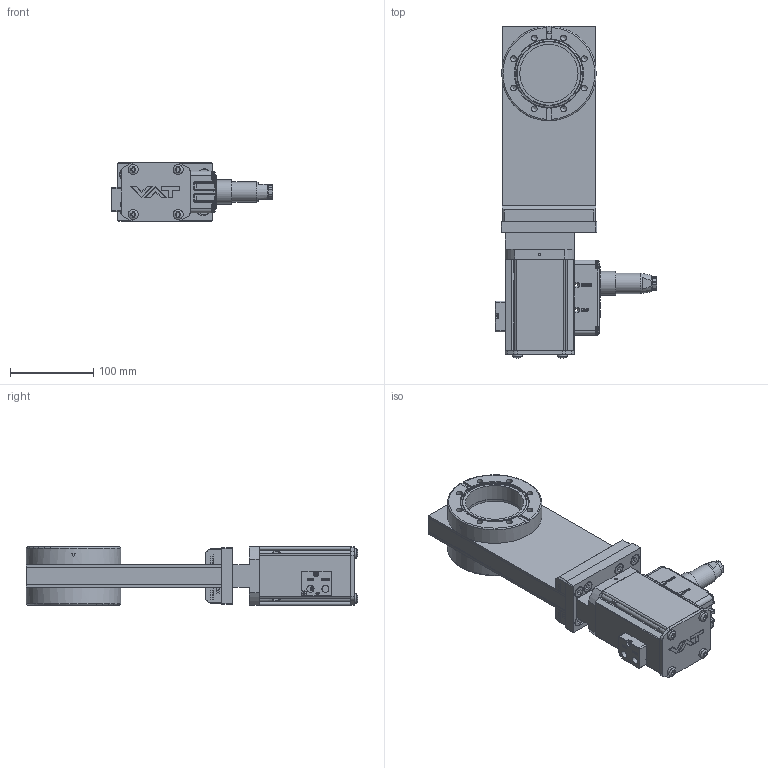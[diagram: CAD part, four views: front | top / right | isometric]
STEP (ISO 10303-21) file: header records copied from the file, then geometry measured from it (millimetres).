
FILE_DESCRIPTION(/* description */ (''),/* implementation_level */ '2;1');
FILE_NAME(/* name */ '1196460278_203.stp',/* time_stamp */ '2016-01-11T09:14:50+01:00',/* author */ (''),/* organization */ (''),/* preprocessor_version */ 'ST-DEVELOPER v15',/* originating_system */ 'SIEMENS PLM Software NX 9.0',/* authorisation */ '');
FILE_SCHEMA (('AP203_CONFIGURATION_CONTROLLED_3D_DESIGN_OF_MECHANICAL_PARTS_AND_ASSEMBLIES_MIM_LF { 1 0 10303 403 2 1 2}'));
Products named in the file (35): 441451_24149ID; 21436-01.1_24162ID; 21437-01.1_24161ID; 21438-01.1; 441451_24158ID; 21437-01.1_24157ID; 21436-01.1_24151ID; 70973-01.1; 70988-01.1; n-8504-002; n-6024-548.1; 70987-01.1; n-6024-526; N-7100-014_2.1; 94828-01.1; N-7100-012_3.1; N-6024-571.1; 85948-01.1; 94221-01.1; 73002-01.1; 69127.1; 72872-01.1; 25832.1_24153ID; 25832.1; n-6099-454.1; 63215-01.1; 218198.1; 790428; 790526_MODEL; 94827-r1.1; 94234-r1.2; 82467-r1.1; 22974-r1.2_MODEL; 25833.2_MODEL; 225356.1
Assembly tree (53 placements, depth 4):
  225356.1
    25833.2_MODEL
      n-6099-454.1  x2
      25832.1
      25832.1_24153ID
      22974-r1.2_MODEL
        21436-01.1_24151ID
        21437-01.1_24157ID
        441451_24158ID
        21438-01.1
        21437-01.1_24161ID
        21436-01.1_24162ID
        441451_24149ID
    790428
    82467-r1.1
      72872-01.1
      69127.1
    218198.1  x8
    63215-01.1
    94234-r1.2
      73002-01.1  x4
      94221-01.1
      85948-01.1
      N-6024-571.1  x4
    94827-r1.1
      N-7100-012_3.1
      94828-01.1
      N-7100-014_2.1
      n-6024-526  x2
    790526_MODEL
      70987-01.1
      n-6024-548.1  x4
      n-8504-002
      70988-01.1  x2
      70973-01.1
Bounding box: 193.75 x 399.02 x 70 mm (x, y, z)
Volume: 1244404.6 mm3; surface area: 438663.5 mm2
Topology: 123 solids, 123 shells, 2682 faces, 6764 edges, 4569 vertices
Faces by surface type: plane 1915, cylinder 460, torus 104, cone 94, extrusion 91, sphere 10, bspline 8
Full cylindrical faces by diameter (mm): 0.7 x1, 1.66 x7, 2 x30, 2.125 x1, 2.5 x16, 2.65 x1, 2.8 x2, 3 x5, 3.3 x6, 4 x10, 4.2 x3, 4.35 x2, 4.4 x4, 4.45 x4, 4.625 x4, 4.75 x8, 5 x7, 5.9 x1, 6 x14, 6.6 x4, 6.66 x8, 6.7 x8, 6.8 x12, 6.909 x16, 7.05 x1, 7.5 x4, 7.982 x4, 8 x20, 8.611 x2, 9 x8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
Entity records: 81113 total; most frequent: CARTESIAN_POINT 19232, ORIENTED_EDGE 10922, DIRECTION 9858, EDGE_CURVE 5461, VERTEX_POINT 3892, VECTOR 3372, LINE 3281, AXIS2_PLACEMENT_3D 3243
